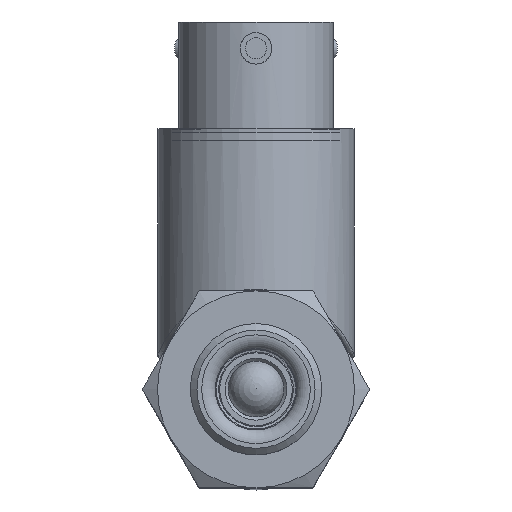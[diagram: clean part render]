
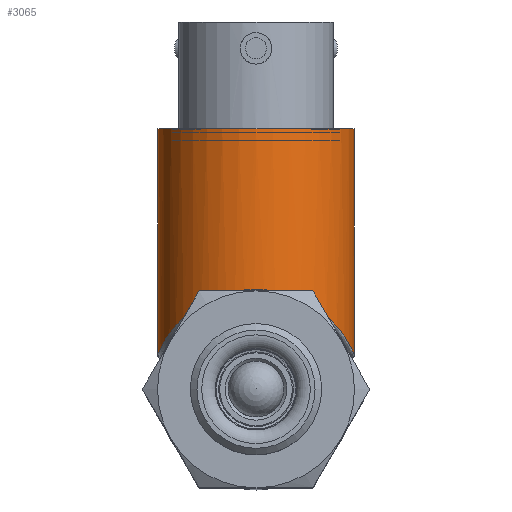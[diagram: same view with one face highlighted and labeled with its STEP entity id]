
A CAD part, top view. The second image highlights one B-rep face of the part: STEP entity #3065.
In plain terms, the highlighted cylindrical face has radius 9.525 mm (diameter 19.05 mm), a full revolution.
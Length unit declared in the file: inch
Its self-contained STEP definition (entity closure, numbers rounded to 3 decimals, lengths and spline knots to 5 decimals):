
#75=B_SPLINE_CURVE_WITH_KNOTS('',3,(#5470,#5471,#5472,#5473,#5474,#5475,
#5476,#5477,#5478,#5479,#5480,#5481,#5482,#5483,#5484,#5485,#5486,#5487,
#5488,#5489,#5490,#5491,#5492,#5493,#5494,#5495,#5496,#5497,#5498,#5499),
 .UNSPECIFIED.,.F.,.F.,(4,1,1,1,1,1,1,1,1,1,1,1,1,1,1,1,1,1,1,1,1,1,1,1,
1,1,1,4),(-9.63704,-9.40762,-9.17816,-8.71925,
-8.41331,-8.26035,-8.10738,-8.03089,
-7.95441,-7.80144,-7.4955,-6.88362,
-6.57768,-6.27174,-5.9658,-5.65987,
-5.35393,-5.04799,-4.93326,-4.81853,
-4.70381,-4.58908,-4.47435,-4.35963,
-4.13017,-3.67126,-3.44181,-3.21236),
 .UNSPECIFIED.);
#190=LINE('',#5534,#329);
#329=VECTOR('',#4042,0.375);
#459=CYLINDRICAL_SURFACE('',#3484,0.375);
#623=FACE_OUTER_BOUND('',#843,.T.);
#843=EDGE_LOOP('',(#2128,#2129,#2130,#2131));
#1093=CIRCLE('',#3485,0.375);
#1315=VERTEX_POINT('',#5469);
#1317=VERTEX_POINT('',#5533);
#1615=EDGE_CURVE('',#1315,#1315,#75,.T.);
#1618=EDGE_CURVE('',#1317,#1315,#190,.T.);
#1619=EDGE_CURVE('',#1317,#1317,#1093,.T.);
#2128=ORIENTED_EDGE('',*,*,#1615,.F.);
#2129=ORIENTED_EDGE('',*,*,#1618,.F.);
#2130=ORIENTED_EDGE('',*,*,#1619,.F.);
#2131=ORIENTED_EDGE('',*,*,#1618,.T.);
#3065=ADVANCED_FACE('',(#623),#459,.T.);
#3484=AXIS2_PLACEMENT_3D('',#5532,#4040,#4041);
#3485=AXIS2_PLACEMENT_3D('',#5535,#4043,#4044);
#4040=DIRECTION('center_axis',(0.,1.,0.));
#4041=DIRECTION('ref_axis',(0.,0.,
1.));
#4042=DIRECTION('',(0.,-1.,0.));
#4043=DIRECTION('center_axis',(0.,1.,0.));
#4044=DIRECTION('ref_axis',(0.,0.,
1.));
#5469=CARTESIAN_POINT('',(0.,0.3875,-1.62));
#5470=CARTESIAN_POINT('Ctrl Pts',(0.,0.3875,
-1.62));
#5471=CARTESIAN_POINT('Ctrl Pts',(0.03115,0.3875,
-1.62));
#5472=CARTESIAN_POINT('Ctrl Pts',(0.09333,0.38037,
-1.61214));
#5473=CARTESIAN_POINT('Ctrl Pts',(0.2046,0.34112,-1.56843));
#5474=CARTESIAN_POINT('Ctrl Pts',(0.29321,0.27238,-1.49028));
#5475=CARTESIAN_POINT('Ctrl Pts',(0.3437,0.20219,-1.40173));
#5476=CARTESIAN_POINT('Ctrl Pts',(0.36561,0.15994,-1.33434));
#5477=CARTESIAN_POINT('Ctrl Pts',(0.37367,0.14038,-1.28655));
#5478=CARTESIAN_POINT('Ctrl Pts',(0.37544,0.13579,-1.24498));
#5479=CARTESIAN_POINT('Ctrl Pts',(0.37369,0.14033,-1.20342));
#5480=CARTESIAN_POINT('Ctrl Pts',(0.36223,0.16823,-1.1366));
#5481=CARTESIAN_POINT('Ctrl Pts',(0.31693,0.24871,-1.02603));
#5482=CARTESIAN_POINT('Ctrl Pts',(0.21707,0.34021,-0.92267));
#5483=CARTESIAN_POINT('Ctrl Pts',(0.06399,0.38905,
-0.86819));
#5484=CARTESIAN_POINT('Ctrl Pts',(-0.06404,0.3889,
-0.86846));
#5485=CARTESIAN_POINT('Ctrl Pts',(-0.1787,0.35268,
-0.90864));
#5486=CARTESIAN_POINT('Ctrl Pts',(-0.26714,0.29416,
-0.97483));
#5487=CARTESIAN_POINT('Ctrl Pts',(-0.32977,0.22591,
-1.05717));
#5488=CARTESIAN_POINT('Ctrl Pts',(-0.36065,0.17105,
-1.13288));
#5489=CARTESIAN_POINT('Ctrl Pts',(-0.37301,0.14215,
-1.19838));
#5490=CARTESIAN_POINT('Ctrl Pts',(-0.376,0.1343,
-1.24507));
#5491=CARTESIAN_POINT('Ctrl Pts',(-0.373,0.14218,
-1.29163));
#5492=CARTESIAN_POINT('Ctrl Pts',(-0.36509,0.1606,
-1.33384));
#5493=CARTESIAN_POINT('Ctrl Pts',(-0.35345,0.1835,
-1.37236));
#5494=CARTESIAN_POINT('Ctrl Pts',(-0.33327,0.21695,
-1.42023));
#5495=CARTESIAN_POINT('Ctrl Pts',(-0.28643,0.27756,
-1.49632));
#5496=CARTESIAN_POINT('Ctrl Pts',(-0.20458,0.34118,-1.56844));
#5497=CARTESIAN_POINT('Ctrl Pts',(-0.09337,0.38033,-1.61211));
#5498=CARTESIAN_POINT('Ctrl Pts',(-0.03116,0.3875,
-1.62));
#5499=CARTESIAN_POINT('Ctrl Pts',(-0.00001,0.3875,
-1.62));
#5532=CARTESIAN_POINT('Origin',(0.,0.5,-1.245));
#5533=CARTESIAN_POINT('',(0.,1.,-1.62));
#5534=CARTESIAN_POINT('',(0.,0.5,-1.62));
#5535=CARTESIAN_POINT('Origin',(0.,1.,-1.245));
